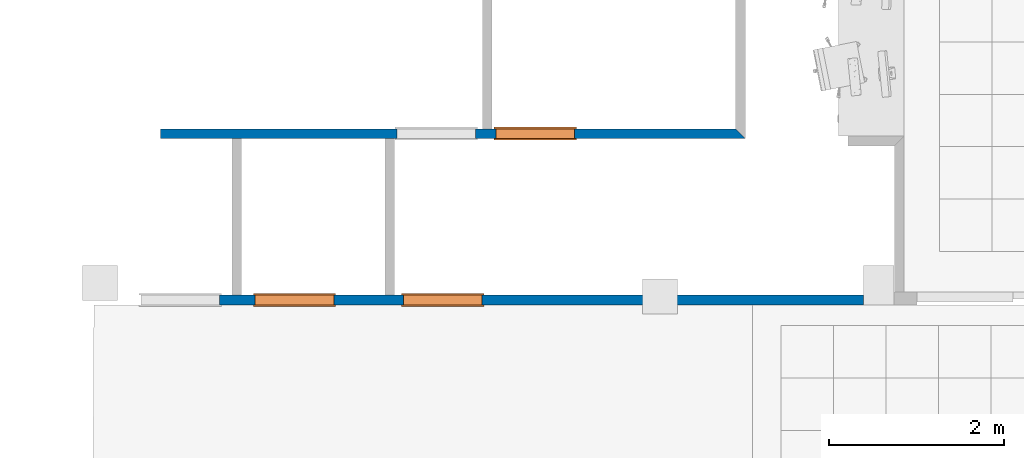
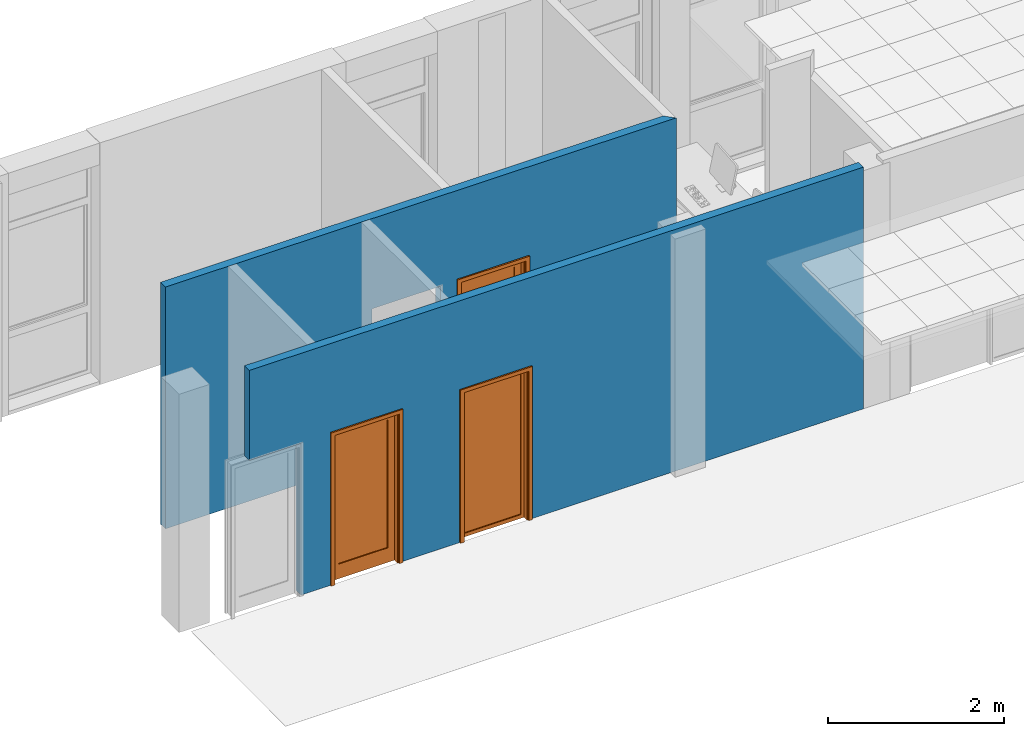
# One storey, part 23 of 68: 3 proxies, 2 walls, 5 openings.
"""IFC2X3 building model written with IfcOpenShell, lengths in millimetres."""

from ifc_helpers import new_model, entity, si_unit, converted_unit, derived_unit, money_unit, direction, frame, origin_with_axes, origin_2d_with_axis, place, context, subcontext, project, spatial, polyline, rectangle, outline, extrude, open_shell, faceted_brep, surface_model, source, transform, mapped, material, layer, layer_set, layer_usage, type_object, element, fill, save


model = new_model("IFC2X3")

# Units and contexts
model_context = context("Model", 3, precision=0.01, world=origin_with_axes(), true_north=direction((0.0, 1.0)))
body_context = subcontext(model_context, "Body", "Model", "MODEL_VIEW")
ifc_project = project(units=[si_unit("LENGTHUNIT", "METRE", prefix="MILLI"), si_unit("AREAUNIT", "SQUARE_METRE"), si_unit("VOLUMEUNIT", "CUBIC_METRE"), converted_unit("PLANEANGLEUNIT", "DEGREE", entity("IfcPlaneAngleMeasure", 0.0174532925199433), si_unit("PLANEANGLEUNIT", "RADIAN"), dimensions=[0, 0, 0, 0, 0, 0, 0]), money_unit("USD"), converted_unit("TIMEUNIT", "Year", entity("IfcTimeMeasure", 31557600.0), si_unit("TIMEUNIT", "SECOND"), dimensions=[0, 0, 1, 0, 0, 0, 0]), si_unit("MASSUNIT", "GRAM", prefix="KILO"), si_unit("THERMODYNAMICTEMPERATUREUNIT", "DEGREE_CELSIUS"), si_unit("LUMINOUSINTENSITYUNIT", "LUMEN"), si_unit("ENERGYUNIT", "JOULE", prefix="MEGA"), derived_unit("THERMALCONDUCTANCEUNIT", [(si_unit("POWERUNIT", "WATT"), 1), (si_unit("LENGTHUNIT", "METRE"), -1), (si_unit("THERMODYNAMICTEMPERATUREUNIT", "KELVIN"), -1)]), derived_unit("SPECIFICHEATCAPACITYUNIT", [(si_unit("ENERGYUNIT", "JOULE"), 1), (si_unit("MASSUNIT", "GRAM", prefix="KILO"), -1), (si_unit("THERMODYNAMICTEMPERATUREUNIT", "KELVIN"), -1)]), derived_unit("MASSDENSITYUNIT", [(si_unit("MASSUNIT", "GRAM", prefix="KILO"), 1), (si_unit("VOLUMEUNIT", "CUBIC_METRE"), -1)])], contexts=[model_context])

# Site, building, storey
site_placement = place(None, origin_with_axes())
site = spatial("IfcSite", under=ifc_project, at=site_placement, Name="Sitio", CompositionType="ELEMENT")
building_placement = place(site_placement, origin_with_axes())
building = spatial("IfcBuilding", under=site, at=building_placement, Name="Construcción", CompositionType="ELEMENT")
storey_placement = place(building_placement, origin_with_axes())
storey = spatial("IfcBuildingStorey", under=building, at=storey_placement, Name="PLANTA 1ª", CompositionType="ELEMENT", Elevation=0.0)

# Wall, openings, proxy
ifc_material_1 = material(Name="ARQ_AM246_Arrebossat_De_Guix")
ifc_layer_1 = layer(ifc_material_1, 10.0, ventilated="UNKNOWN")
ifc_material_2 = material(Name="ARQ_CE217_Gero")
ifc_layer_2 = layer(ifc_material_2, 90.0, ventilated="UNKNOWN")
ifc_layer_3 = layer(ifc_material_1, 10.0, ventilated="UNKNOWN")
ifc_layer_set = layer_set([ifc_layer_1, ifc_layer_2, ifc_layer_3], Name="CR Enva Totxana")
ifc_layer_usage_1 = layer_usage(ifc_layer_set, "AXIS2", "POSITIVE", 0.0)
wall_type = type_object("IfcWallType", Name="CR Enva Totxana 110", PredefinedType="NOTDEFINED")
wall_1_placement = place(storey_placement, frame((-27275.14962012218, -15178.97582371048, 0.0), z_axis=(0.0, 0.0, 1.0), x_axis=(1.0, 0.0, 0.0)))
wall_1 = element("IfcWallStandardCase", 1, at=wall_1_placement, inside=storey, type_object=wall_type, material=ifc_layer_usage_1, Name="MS-201", context=body_context, shape_type="SweptSolid", body=[
    extrude(outline(polyline([(0.0, 0.0), (6693.718264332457, 0.0), (6583.718264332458, 109.9999999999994), (0.0, 109.9999999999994), (0.0, 0.0)])), origin_with_axes(), (0.0, 0.0, 1.0), 3350.0),
])
opening_1_placement = place(wall_1_placement, frame((3155.540615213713, 0.0, 0.0), z_axis=(0.0, 0.0, 1.0), x_axis=(1.0, 0.0, 0.0)))
element("IfcOpeningElement", 2, at=opening_1_placement, cuts=wall_1, Name="PF-07D", context=body_context, shape_type="SweptSolid", body=[
    extrude(rectangle(XDim=899.9999999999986, YDim=2100.0, at=origin_2d_with_axis()), frame((0.0, -109.9999999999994, 1050.0), z_axis=(0.0, 1.0, 0.0), x_axis=(1.0, 0.0, 0.0)), (0.0, 0.0, 1.0), 329.9999999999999),
    extrude(rectangle(XDim=944.0000000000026, YDim=2122.0, at=origin_2d_with_axis()), frame((0.0, 0.0, 1061.0), z_axis=(0.0, 1.0, 0.0), x_axis=(1.0, 0.0, 0.0)), (0.0, 0.0, -1.0), 110.0),
    extrude(rectangle(XDim=944.0000000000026, YDim=2122.0, at=origin_2d_with_axis()), frame((0.0, 109.9999999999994, 1061.0), z_axis=(0.0, -1.0, 0.0), x_axis=(1.0, 0.0, 0.0)), (0.0, 0.0, -1.0), 110.0),
])
opening_2_placement = place(wall_1_placement, frame((4291.29279168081, 0.0, 0.0), z_axis=(0.0, 0.0, 1.0), x_axis=(1.0, 0.0, 0.0)))
opening_2 = element("IfcOpeningElement", 3, at=opening_2_placement, cuts=wall_1, Name="PF-08D", context=body_context, shape_type="SweptSolid", body=[
    extrude(rectangle(XDim=899.9999999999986, YDim=2100.0, at=origin_2d_with_axis()), frame((0.0, -109.9999999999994, 1050.0), z_axis=(0.0, -1.0, 0.0), x_axis=(-1.0, 0.0, 0.0)), (0.0, 0.0, -1.0), 329.9999999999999),
    extrude(rectangle(XDim=944.0000000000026, YDim=2122.0, at=origin_2d_with_axis()), frame((0.0, 0.0, 1061.0), z_axis=(0.0, -1.0, 0.0), x_axis=(-1.0, 0.0, 0.0)), (0.0, 0.0, 1.0), 110.0),
    extrude(rectangle(XDim=944.0000000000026, YDim=2122.0, at=origin_2d_with_axis()), frame((0.0, 109.9999999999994, 1061.0), z_axis=(0.0, 1.0, 0.0), x_axis=(-1.0, 0.0, 0.0)), (0.0, 0.0, 1.0), 110.0),
])
building_element_proxy_type = type_object("IfcBuildingElementProxyType", Name="Puerta 27", PredefinedType="NOTDEFINED")
shared_shape_1 = source(origin_with_axes(), body_context, "Body", "SurfaceModel", [
    faceted_brep([(472.0000000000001, -129.0, 0.0), (422.0000000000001, -129.0, 0.0), (422.0000000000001, -110.0, 0.0), (472.0000000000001, -110.0, 0.0), (472.0000000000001, -129.0000000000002, 2122.0), (422.0000000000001, -129.0000000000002, 2072.0), (422.0000000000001, -110.0000000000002, 2072.0), (472.0000000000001, -110.0000000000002, 2122.0)], [[[0, 1, 2, 3]], [[0, 4, 5, 1]], [[1, 5, 6, 2]], [[3, 2, 6, 7]], [[4, 0, 3, 7]], [[5, 4, 7, 6]]]),
    faceted_brep([(-472.0000000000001, -129.0000000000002, 2122.0), (-422.0000000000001, -129.0000000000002, 2072.0), (-422.0000000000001, -110.0000000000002, 2072.0), (-472.0000000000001, -110.0000000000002, 2122.0), (-472.0000000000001, -129.0, 0.0), (-422.0000000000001, -129.0, 0.0), (-422.0000000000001, -110.0, 0.0), (-472.0000000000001, -110.0, 0.0)], [[[0, 1, 2, 3]], [[0, 4, 5, 1]], [[1, 5, 6, 2]], [[3, 2, 6, 7]], [[4, 0, 3, 7]], [[5, 4, 7, 6]]]),
    faceted_brep([(472.0000000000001, -129.0000000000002, 2122.0), (422.0000000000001, -129.0000000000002, 2072.0), (422.0000000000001, -110.0000000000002, 2072.0), (472.0000000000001, -110.0000000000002, 2122.0), (-472.0000000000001, -129.0000000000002, 2122.0), (-422.0000000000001, -129.0000000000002, 2072.0), (-422.0000000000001, -110.0000000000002, 2072.0), (-472.0000000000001, -110.0000000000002, 2122.0)], [[[0, 1, 2, 3]], [[0, 4, 5, 1]], [[1, 5, 6, 2]], [[3, 2, 6, 7]], [[4, 0, 3, 7]], [[5, 4, 7, 6]]]),
    faceted_brep([(472.0000000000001, 19.0, 0.0), (472.0000000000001, 0.0, 0.0), (422.0000000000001, 0.0, 0.0), (422.0000000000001, 19.0, 0.0), (472.0000000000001, 18.99999999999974, 2122.0), (472.0000000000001, 0.0, 2122.0), (422.0000000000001, 0.0, 2072.0), (422.0000000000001, 18.99999999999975, 2072.0)], [[[0, 1, 2, 3]], [[4, 5, 1, 0]], [[1, 5, 6, 2]], [[3, 2, 6, 7]], [[0, 3, 7, 4]], [[7, 6, 5, 4]]]),
    faceted_brep([(-472.0000000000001, 18.99999999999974, 2122.0), (-472.0000000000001, 0.0, 2122.0), (-422.0000000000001, 0.0, 2072.0), (-422.0000000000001, 18.99999999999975, 2072.0), (-472.0000000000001, 19.0, 0.0), (-472.0000000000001, 0.0, 0.0), (-422.0000000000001, 0.0, 0.0), (-422.0000000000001, 19.0, 0.0)], [[[0, 1, 2, 3]], [[4, 5, 1, 0]], [[1, 5, 6, 2]], [[3, 2, 6, 7]], [[0, 3, 7, 4]], [[7, 6, 5, 4]]]),
    faceted_brep([(472.0000000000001, 18.99999999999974, 2122.0), (472.0000000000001, 0.0, 2122.0), (422.0, 0.0, 2072.0), (422.0, 18.99999999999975, 2072.0), (-472.0000000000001, 18.99999999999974, 2122.0), (-472.0000000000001, 0.0, 2122.0), (-422.0, 0.0, 2072.0), (-422.0, 18.99999999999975, 2072.0)], [[[0, 1, 2, 3]], [[4, 5, 1, 0]], [[1, 5, 6, 2]], [[3, 2, 6, 7]], [[0, 3, 7, 4]], [[7, 6, 5, 4]]]),
    faceted_brep([(409.9999999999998, -40.0, 0.0), (410.0000000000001, -110.0, 0.0), (410.0000000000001, -110.0, 2060.0), (410.0000000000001, -40.0, 2060.0), (422.0000000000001, -40.0, 0.0), (422.0000000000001, 0.0, 0.0), (449.9999999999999, 0.0, 0.0), (449.9999999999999, -110.0, 0.0), (449.9999999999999, -110.0, 2060.0), (422.0000000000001, -40.0, 2060.0), (449.9999999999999, 0.0, 2060.0), (422.0000000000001, 0.0, 2060.0)], [[[0, 1, 2, 3]], [[4, 5, 6, 7, 1, 0]], [[1, 7, 8, 2]], [[9, 3, 2, 8, 10, 11]], [[9, 4, 0, 3]], [[11, 5, 4, 9]], [[11, 10, 6, 5]], [[6, 10, 8, 7]]]),
    faceted_brep([(-422.0000000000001, -40.0, 2060.0), (-422.0000000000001, 0.0, 2060.0), (-449.9999999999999, 0.0, 2060.0), (-449.9999999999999, -110.0, 2060.0), (-410.0000000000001, -110.0, 2060.0), (-410.0000000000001, -40.0, 2060.0), (-422.0000000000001, -40.0, 0.0), (-422.0000000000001, 0.0, 0.0), (-449.9999999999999, 0.0, 0.0), (-449.9999999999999, -110.0, 0.0), (-410.0000000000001, -110.0, 0.0), (-410.0000000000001, -40.0, 0.0)], [[[0, 1, 2, 3, 4, 5]], [[0, 6, 7, 1]], [[7, 8, 2, 1]], [[2, 8, 9, 3]], [[3, 9, 10, 4]], [[5, 4, 10, 11]], [[5, 11, 6, 0]], [[6, 11, 10, 9, 8, 7]]]),
    faceted_brep([(422.0000000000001, 0.0, 2072.0), (-422.0000000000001, 0.0, 2072.0), (-422.0000000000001, 0.0, 2060.0), (-450.0, 0.0, 2060.0), (-450.0, 0.0, 2100.0), (450.0, 0.0, 2100.0), (450.0, 0.0, 2060.0), (422.0000000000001, 0.0, 2060.0), (422.0000000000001, -40.0, 2072.0), (-422.0000000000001, -40.0, 2072.0), (-422.0000000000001, -40.0, 2060.0), (-410.0000000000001, -40.0, 2060.0), (-410.0000000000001, -110.0, 2060.0), (-450.0, -110.0, 2060.0), (-450.0, -110.0, 2100.0), (450.0, -110.0, 2100.0), (450.0, -110.0, 2060.0), (422.0000000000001, -40.0, 2060.0), (410.0000000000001, -110.0, 2060.0), (410.0000000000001, -40.0, 2060.0)], [[[0, 1, 2, 3, 4, 5, 6, 7]], [[0, 8, 9, 1]], [[1, 9, 10, 2]], [[10, 11, 12, 13, 3, 2]], [[4, 3, 13, 14]], [[5, 4, 14, 15]], [[6, 5, 15, 16]], [[17, 7, 6, 16, 18, 19]], [[7, 17, 8, 0]], [[10, 9, 8, 17, 19, 11]], [[19, 18, 12, 11]], [[12, 18, 16, 15, 14, 13]]]),
    faceted_brep([(-421.9999999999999, 0.0, 200.0), (-321.9999999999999, 0.0, 200.0), (-321.9999999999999, -40.00000000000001, 200.0), (-421.9999999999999, -40.00000000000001, 200.0), (-421.9999999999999, 0.0, 1972.0), (-321.9999999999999, 0.0, 1972.0), (-321.9999999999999, -40.00000000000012, 1972.0), (-421.9999999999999, -40.00000000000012, 1972.0)], [[[0, 1, 2, 3]], [[0, 4, 5, 1]], [[1, 5, 6, 2]], [[3, 2, 6, 7]], [[4, 0, 3, 7]], [[5, 4, 7, 6]]]),
    faceted_brep([(422.0000000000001, 0.0, 200.0), (422.0000000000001, 0.0, 1972.0), (422.0000000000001, -40.00000000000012, 1972.0), (422.0000000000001, -40.00000000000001, 200.0), (322.0, 0.0, 200.0), (322.0, 0.0, 1972.0), (322.0, -40.00000000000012, 1972.0), (322.0, -40.00000000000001, 200.0)], [[[0, 1, 2, 3]], [[0, 4, 5, 1]], [[1, 5, 6, 2]], [[3, 2, 6, 7]], [[4, 0, 3, 7]], [[5, 4, 7, 6]]]),
    faceted_brep([(-421.9999999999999, 0.0, 0.0), (422.0000000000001, 0.0, 0.0), (422.0000000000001, -40.0, 0.0), (-421.9999999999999, -40.0, 0.0), (-421.9999999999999, 0.0, 200.0), (-321.9999999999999, 0.0, 200.0), (322.0, 0.0, 200.0), (422.0000000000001, 0.0, 200.0), (422.0000000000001, -40.00000000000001, 200.0), (322.0, -40.00000000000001, 200.0), (-321.9999999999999, -40.00000000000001, 200.0), (-421.9999999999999, -40.00000000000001, 200.0)], [[[0, 1, 2, 3]], [[0, 4, 5, 6, 7, 1]], [[1, 7, 8, 2]], [[3, 2, 8, 9, 10, 11]], [[4, 0, 3, 11]], [[5, 4, 11, 10]], [[6, 5, 10, 9]], [[7, 6, 9, 8]]]),
    faceted_brep([(-421.9999999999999, 0.0, 2072.0), (-421.9999999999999, 0.0, 1972.0), (-421.9999999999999, -40.00000000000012, 1972.0), (-421.9999999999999, -40.00000000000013, 2072.0), (422.0000000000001, 0.0, 2072.0), (422.0000000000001, 0.0, 1972.0), (322.0, 0.0, 1972.0), (-321.9999999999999, 0.0, 1972.0), (-321.9999999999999, -40.00000000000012, 1972.0), (322.0, -40.00000000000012, 1972.0), (422.0000000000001, -40.00000000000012, 1972.0), (422.0000000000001, -40.00000000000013, 2072.0)], [[[0, 1, 2, 3]], [[0, 4, 5, 6, 7, 1]], [[1, 7, 8, 2]], [[3, 2, 8, 9, 10, 11]], [[4, 0, 3, 11]], [[5, 4, 11, 10]], [[6, 5, 10, 9]], [[7, 6, 9, 8]]]),
    surface_model("IfcShellBasedSurfaceModel", [(-321.9999999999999, -14.0, 200.0), (-321.9999999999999, -14.0, 1972.0), (322.0, -14.0, 1972.0), (322.0, -14.0, 200.0)], [open_shell([[[0, 1, 2, 3]]])]),
    surface_model("IfcShellBasedSurfaceModel", [(-321.9999999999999, -26.0, 200.0), (322.0, -26.0, 200.0), (322.0, -26.0, 1972.0), (-321.9999999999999, -26.0, 1972.0)], [open_shell([[[0, 1, 2, 3]]])]),
])
proxy_1_placement = place(opening_2_placement, frame((-449.9999999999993, 0.0, 0.0), z_axis=(0.0, 0.0, 1.0), x_axis=(1.0, 0.0, 0.0)))
proxy_1 = element("IfcBuildingElementProxy", 4, at=proxy_1_placement, inside=storey, type_object=building_element_proxy_type, Name="PF-08D", context=body_context, shape_type="MappedRepresentation", body=[
    mapped(shared_shape_1, transform((449.9999999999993, 109.9999999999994, 0.0))),
])
fill(opening_2, proxy_1)

# Wall, openings, proxies
ifc_layer_usage_2 = layer_usage(ifc_layer_set, "AXIS2", "POSITIVE", 0.0)
wall_2_placement = place(storey_placement, frame((-27275.14962012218, -17083.97582371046, 0.0), z_axis=(0.0, 0.0, 1.0), x_axis=(1.0, 0.0, 0.0)))
wall_2 = element("IfcWallStandardCase", 5, at=wall_2_placement, inside=storey, type_object=wall_type, material=ifc_layer_usage_2, Name="MS-201", context=body_context, shape_type="SweptSolid", body=[
    extrude(outline(polyline([(0.0, 0.0), (8046.540615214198, 0.0), (8046.540615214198, 109.9999999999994), (0.0, 109.9999999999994), (0.0, 0.0)])), origin_with_axes(), (0.0, 0.0, 1.0), 3350.0),
])
opening_3_placement = place(wall_2_placement, frame((1533.04558839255, 0.0, 0.0), z_axis=(0.0, 0.0, 1.0), x_axis=(1.0, 0.0, 0.0)))
opening_3 = element("IfcOpeningElement", 6, at=opening_3_placement, cuts=wall_2, Name="PF-04D", context=body_context, shape_type="SweptSolid", body=[
    extrude(rectangle(XDim=899.9999999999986, YDim=2100.0, at=origin_2d_with_axis()), frame((0.0, -109.9999999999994, 1050.0), z_axis=(0.0, -1.0, 0.0), x_axis=(-1.0, 0.0, 0.0)), (0.0, 0.0, -1.0), 329.9999999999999),
    extrude(rectangle(XDim=944.0000000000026, YDim=2122.0, at=origin_2d_with_axis()), frame((0.0, 0.0, 1061.0), z_axis=(0.0, -1.0, 0.0), x_axis=(-1.0, 0.0, 0.0)), (0.0, 0.0, 1.0), 110.0),
    extrude(rectangle(XDim=944.0000000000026, YDim=2122.0, at=origin_2d_with_axis()), frame((0.0, 109.9999999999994, 1061.0), z_axis=(0.0, 1.0, 0.0), x_axis=(-1.0, 0.0, 0.0)), (0.0, 0.0, 1.0), 110.0),
])
opening_4_placement = place(wall_2_placement, frame((224.040615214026, 0.0, 0.0), z_axis=(0.0, 0.0, 1.0), x_axis=(1.0, 0.0, 0.0)))
element("IfcOpeningElement", 7, at=opening_4_placement, cuts=wall_2, Name="PF-06D", context=body_context, shape_type="SweptSolid", body=[
    extrude(rectangle(XDim=899.9999999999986, YDim=2100.0, at=origin_2d_with_axis()), frame((0.0, -109.9999999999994, 1050.0), z_axis=(0.0, 1.0, 0.0), x_axis=(1.0, 0.0, 0.0)), (0.0, 0.0, 1.0), 329.9999999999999),
    extrude(rectangle(XDim=944.0000000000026, YDim=2122.0, at=origin_2d_with_axis()), frame((0.0, 0.0, 1061.0), z_axis=(0.0, 1.0, 0.0), x_axis=(1.0, 0.0, 0.0)), (0.0, 0.0, -1.0), 110.0),
    extrude(rectangle(XDim=944.0000000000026, YDim=2122.0, at=origin_2d_with_axis()), frame((0.0, 109.9999999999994, 1061.0), z_axis=(0.0, -1.0, 0.0), x_axis=(1.0, 0.0, 0.0)), (0.0, 0.0, -1.0), 110.0),
])
opening_5_placement = place(wall_2_placement, frame((3228.740581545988, 0.0, 0.0), z_axis=(0.0, 0.0, 1.0), x_axis=(1.0, 0.0, 0.0)))
opening_5 = element("IfcOpeningElement", 8, at=opening_5_placement, cuts=wall_2, Name="PF-05D", context=body_context, shape_type="SweptSolid", body=[
    extrude(rectangle(XDim=899.9999999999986, YDim=2100.0, at=origin_2d_with_axis()), frame((0.0, -109.9999999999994, 1050.0), z_axis=(0.0, -1.0, 0.0), x_axis=(-1.0, 0.0, 0.0)), (0.0, 0.0, -1.0), 329.9999999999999),
    extrude(rectangle(XDim=944.0000000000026, YDim=2122.0, at=origin_2d_with_axis()), frame((0.0, 0.0, 1061.0), z_axis=(0.0, -1.0, 0.0), x_axis=(-1.0, 0.0, 0.0)), (0.0, 0.0, 1.0), 110.0),
    extrude(rectangle(XDim=944.0000000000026, YDim=2122.0, at=origin_2d_with_axis()), frame((0.0, 109.9999999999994, 1061.0), z_axis=(0.0, 1.0, 0.0), x_axis=(-1.0, 0.0, 0.0)), (0.0, 0.0, 1.0), 110.0),
])
proxy_2_placement = place(opening_3_placement, frame((-449.9999999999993, 0.0, 0.0), z_axis=(0.0, 0.0, 1.0), x_axis=(1.0, 0.0, 0.0)))
proxy_2 = element("IfcBuildingElementProxy", 9, at=proxy_2_placement, inside=storey, type_object=building_element_proxy_type, Name="PF-04D", context=body_context, shape_type="MappedRepresentation", body=[
    mapped(shared_shape_1, transform((449.9999999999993, 109.9999999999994, 0.0))),
])
fill(opening_3, proxy_2)
shared_shape_2 = source(origin_with_axes(), body_context, "Body", "SurfaceModel", [
    faceted_brep([(472.0000000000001, -129.0, 0.0), (422.0000000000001, -129.0, 0.0), (422.0000000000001, -110.0, 0.0), (472.0000000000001, -110.0, 0.0), (472.0000000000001, -129.0000000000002, 2122.0), (422.0000000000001, -129.0000000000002, 2072.0), (422.0000000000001, -110.0000000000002, 2072.0), (472.0000000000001, -110.0000000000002, 2122.0)], [[[0, 1, 2, 3]], [[0, 4, 5, 1]], [[1, 5, 6, 2]], [[3, 2, 6, 7]], [[4, 0, 3, 7]], [[5, 4, 7, 6]]]),
    faceted_brep([(-472.0000000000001, -129.0000000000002, 2122.0), (-422.0000000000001, -129.0000000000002, 2072.0), (-422.0000000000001, -110.0000000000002, 2072.0), (-472.0000000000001, -110.0000000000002, 2122.0), (-472.0000000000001, -129.0, 0.0), (-422.0000000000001, -129.0, 0.0), (-422.0000000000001, -110.0, 0.0), (-472.0000000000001, -110.0, 0.0)], [[[0, 1, 2, 3]], [[0, 4, 5, 1]], [[1, 5, 6, 2]], [[3, 2, 6, 7]], [[4, 0, 3, 7]], [[5, 4, 7, 6]]]),
    faceted_brep([(472.0000000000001, -129.0000000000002, 2122.0), (422.0000000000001, -129.0000000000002, 2072.0), (422.0000000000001, -110.0000000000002, 2072.0), (472.0000000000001, -110.0000000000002, 2122.0), (-472.0000000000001, -129.0000000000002, 2122.0), (-422.0000000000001, -129.0000000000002, 2072.0), (-422.0000000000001, -110.0000000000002, 2072.0), (-472.0000000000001, -110.0000000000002, 2122.0)], [[[0, 1, 2, 3]], [[0, 4, 5, 1]], [[1, 5, 6, 2]], [[3, 2, 6, 7]], [[4, 0, 3, 7]], [[5, 4, 7, 6]]]),
    faceted_brep([(472.0000000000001, 19.0, 0.0), (472.0000000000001, 0.0, 0.0), (422.0000000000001, 0.0, 0.0), (422.0000000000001, 19.0, 0.0), (472.0000000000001, 18.99999999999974, 2122.0), (472.0000000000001, 0.0, 2122.0), (422.0000000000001, 0.0, 2072.0), (422.0000000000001, 18.99999999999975, 2072.0)], [[[0, 1, 2, 3]], [[4, 5, 1, 0]], [[1, 5, 6, 2]], [[3, 2, 6, 7]], [[0, 3, 7, 4]], [[7, 6, 5, 4]]]),
    faceted_brep([(-472.0000000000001, 18.99999999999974, 2122.0), (-472.0000000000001, 0.0, 2122.0), (-422.0000000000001, 0.0, 2072.0), (-422.0000000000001, 18.99999999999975, 2072.0), (-472.0000000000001, 19.0, 0.0), (-472.0000000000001, 0.0, 0.0), (-422.0000000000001, 0.0, 0.0), (-422.0000000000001, 19.0, 0.0)], [[[0, 1, 2, 3]], [[4, 5, 1, 0]], [[1, 5, 6, 2]], [[3, 2, 6, 7]], [[0, 3, 7, 4]], [[7, 6, 5, 4]]]),
    faceted_brep([(472.0000000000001, 18.99999999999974, 2122.0), (472.0000000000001, 0.0, 2122.0), (422.0, 0.0, 2072.0), (422.0, 18.99999999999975, 2072.0), (-472.0000000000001, 18.99999999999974, 2122.0), (-472.0000000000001, 0.0, 2122.0), (-422.0, 0.0, 2072.0), (-422.0, 18.99999999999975, 2072.0)], [[[0, 1, 2, 3]], [[4, 5, 1, 0]], [[1, 5, 6, 2]], [[3, 2, 6, 7]], [[0, 3, 7, 4]], [[7, 6, 5, 4]]]),
    faceted_brep([(409.9999999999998, -40.0, 0.0), (410.0000000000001, -110.0, 0.0), (410.0000000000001, -110.0, 2060.0), (410.0000000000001, -40.0, 2060.0), (422.0000000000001, -40.0, 0.0), (422.0000000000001, 0.0, 0.0), (449.9999999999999, 0.0, 0.0), (449.9999999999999, -110.0, 0.0), (449.9999999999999, -110.0, 2060.0), (422.0000000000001, -40.0, 2060.0), (449.9999999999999, 0.0, 2060.0), (422.0000000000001, 0.0, 2060.0)], [[[0, 1, 2, 3]], [[4, 5, 6, 7, 1, 0]], [[1, 7, 8, 2]], [[9, 3, 2, 8, 10, 11]], [[9, 4, 0, 3]], [[11, 5, 4, 9]], [[11, 10, 6, 5]], [[6, 10, 8, 7]]]),
    faceted_brep([(-422.0000000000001, -40.0, 2060.0), (-422.0000000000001, 0.0, 2060.0), (-449.9999999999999, 0.0, 2060.0), (-449.9999999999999, -110.0, 2060.0), (-410.0000000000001, -110.0, 2060.0), (-410.0000000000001, -40.0, 2060.0), (-422.0000000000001, -40.0, 0.0), (-422.0000000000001, 0.0, 0.0), (-449.9999999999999, 0.0, 0.0), (-449.9999999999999, -110.0, 0.0), (-410.0000000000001, -110.0, 0.0), (-410.0000000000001, -40.0, 0.0)], [[[0, 1, 2, 3, 4, 5]], [[0, 6, 7, 1]], [[7, 8, 2, 1]], [[2, 8, 9, 3]], [[3, 9, 10, 4]], [[5, 4, 10, 11]], [[5, 11, 6, 0]], [[6, 11, 10, 9, 8, 7]]]),
    faceted_brep([(422.0000000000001, 0.0, 2072.0), (-422.0000000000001, 0.0, 2072.0), (-422.0000000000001, 0.0, 2060.0), (-450.0, 0.0, 2060.0), (-450.0, 0.0, 2100.0), (450.0, 0.0, 2100.0), (450.0, 0.0, 2060.0), (422.0000000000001, 0.0, 2060.0), (422.0000000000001, -40.0, 2072.0), (-422.0000000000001, -40.0, 2072.0), (-422.0000000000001, -40.0, 2060.0), (-410.0000000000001, -40.0, 2060.0), (-410.0000000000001, -110.0, 2060.0), (-450.0, -110.0, 2060.0), (-450.0, -110.0, 2100.0), (450.0, -110.0, 2100.0), (450.0, -110.0, 2060.0), (422.0000000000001, -40.0, 2060.0), (410.0000000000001, -110.0, 2060.0), (410.0000000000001, -40.0, 2060.0)], [[[0, 1, 2, 3, 4, 5, 6, 7]], [[0, 8, 9, 1]], [[1, 9, 10, 2]], [[10, 11, 12, 13, 3, 2]], [[4, 3, 13, 14]], [[5, 4, 14, 15]], [[6, 5, 15, 16]], [[17, 7, 6, 16, 18, 19]], [[7, 17, 8, 0]], [[10, 9, 8, 17, 19, 11]], [[19, 18, 12, 11]], [[12, 18, 16, 15, 14, 13]]]),
    faceted_brep([(-421.9999999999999, 0.0, 50.0), (-371.9999999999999, 0.0, 50.0), (-371.9999999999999, -40.0, 50.0), (-421.9999999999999, -40.0, 50.0), (-421.9999999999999, 0.0, 2022.0), (-371.9999999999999, 0.0, 2022.0), (-371.9999999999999, -40.00000000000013, 2022.0), (-421.9999999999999, -40.00000000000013, 2022.0)], [[[0, 1, 2, 3]], [[0, 4, 5, 1]], [[1, 5, 6, 2]], [[3, 2, 6, 7]], [[4, 0, 3, 7]], [[5, 4, 7, 6]]]),
    faceted_brep([(422.0000000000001, 0.0, 50.0), (422.0000000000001, 0.0, 2022.0), (422.0000000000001, -40.00000000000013, 2022.0), (422.0000000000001, -40.0, 50.0), (372.0000000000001, 0.0, 50.0), (372.0000000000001, 0.0, 2022.0), (372.0000000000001, -40.00000000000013, 2022.0), (372.0000000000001, -40.0, 50.0)], [[[0, 1, 2, 3]], [[0, 4, 5, 1]], [[1, 5, 6, 2]], [[3, 2, 6, 7]], [[4, 0, 3, 7]], [[5, 4, 7, 6]]]),
    faceted_brep([(-421.9999999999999, 0.0, 0.0), (422.0000000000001, 0.0, 0.0), (422.0000000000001, -40.0, 0.0), (-421.9999999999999, -40.0, 0.0), (-421.9999999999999, 0.0, 50.0), (-371.9999999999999, 0.0, 50.0), (372.0000000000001, 0.0, 50.0), (422.0000000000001, 0.0, 50.0), (422.0000000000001, -40.0, 50.0), (372.0000000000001, -40.0, 50.0), (-371.9999999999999, -40.0, 50.0), (-421.9999999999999, -40.0, 50.0)], [[[0, 1, 2, 3]], [[0, 4, 5, 6, 7, 1]], [[1, 7, 8, 2]], [[3, 2, 8, 9, 10, 11]], [[4, 0, 3, 11]], [[5, 4, 11, 10]], [[6, 5, 10, 9]], [[7, 6, 9, 8]]]),
    faceted_brep([(-421.9999999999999, 0.0, 2072.0), (-421.9999999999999, 0.0, 2022.0), (-421.9999999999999, -40.00000000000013, 2022.0), (-421.9999999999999, -40.00000000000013, 2072.0), (422.0000000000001, 0.0, 2072.0), (422.0000000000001, 0.0, 2022.0), (372.0000000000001, 0.0, 2022.0), (-371.9999999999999, 0.0, 2022.0), (-371.9999999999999, -40.00000000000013, 2022.0), (372.0000000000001, -40.00000000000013, 2022.0), (422.0000000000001, -40.00000000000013, 2022.0), (422.0000000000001, -40.00000000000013, 2072.0)], [[[0, 1, 2, 3]], [[0, 4, 5, 6, 7, 1]], [[1, 7, 8, 2]], [[3, 2, 8, 9, 10, 11]], [[4, 0, 3, 11]], [[5, 4, 11, 10]], [[6, 5, 10, 9]], [[7, 6, 9, 8]]]),
    surface_model("IfcShellBasedSurfaceModel", [(-371.9999999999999, -14.0, 50.0), (-371.9999999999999, -14.0, 2022.0), (372.0000000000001, -14.0, 2022.0), (372.0000000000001, -14.0, 50.0)], [open_shell([[[0, 1, 2, 3]]])]),
    surface_model("IfcShellBasedSurfaceModel", [(-371.9999999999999, -26.0, 50.0), (372.0000000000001, -26.0, 50.0), (372.0000000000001, -26.0, 2022.0), (-371.9999999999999, -26.0, 2022.0)], [open_shell([[[0, 1, 2, 3]]])]),
])
proxy_3_placement = place(opening_5_placement, frame((-449.9999999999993, 0.0, 0.0), z_axis=(0.0, 0.0, 1.0), x_axis=(1.0, 0.0, 0.0)))
proxy_3 = element("IfcBuildingElementProxy", 10, at=proxy_3_placement, inside=storey, type_object=building_element_proxy_type, Name="PF-05D", context=body_context, shape_type="MappedRepresentation", body=[
    mapped(shared_shape_2, transform((449.9999999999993, 109.9999999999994, 0.0))),
])
fill(opening_5, proxy_3)

save(model, "model.ifc")
